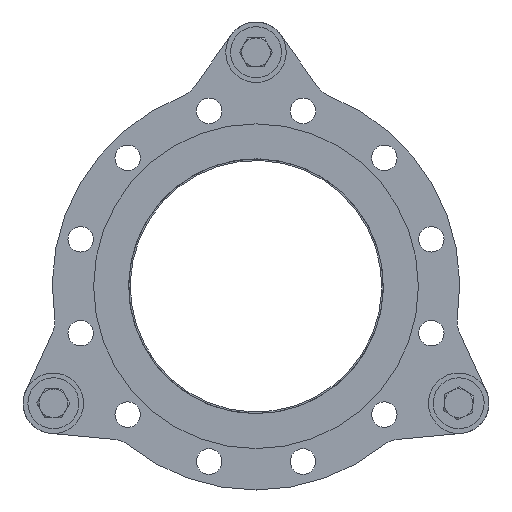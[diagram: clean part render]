
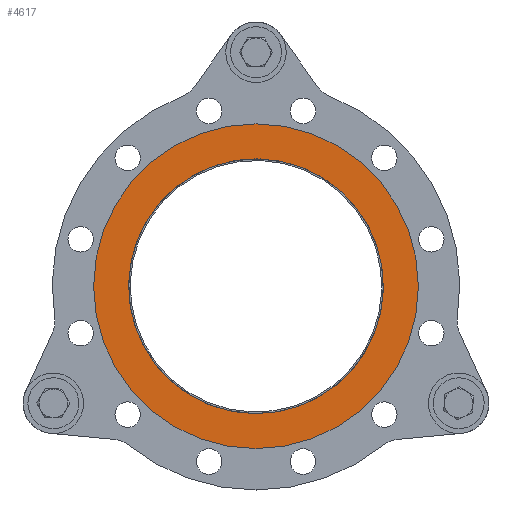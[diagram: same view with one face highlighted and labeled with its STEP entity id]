
A CAD part, front view. The second image highlights one B-rep face of the part: STEP entity #4617.
In plain terms, the highlighted planar face has unit normal (0, -1, 0).
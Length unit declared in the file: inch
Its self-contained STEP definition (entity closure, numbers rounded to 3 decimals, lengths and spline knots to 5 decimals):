
#476=PLANE('',#5053);
#664=FACE_BOUND('',#1295,.T.);
#905=FACE_OUTER_BOUND('',#1294,.T.);
#1294=EDGE_LOOP('',(#3238));
#1295=EDGE_LOOP('',(#3239));
#1839=CIRCLE('',#5049,5.);
#1840=CIRCLE('',#5051,6.375);
#2171=VERTEX_POINT('',#7226);
#2172=VERTEX_POINT('',#7229);
#2605=EDGE_CURVE('',#2171,#2171,#1839,.T.);
#2606=EDGE_CURVE('',#2172,#2172,#1840,.T.);
#3238=ORIENTED_EDGE('',*,*,#2606,.T.);
#3239=ORIENTED_EDGE('',*,*,#2605,.T.);
#4617=ADVANCED_FACE('',(#905,#664),#476,.T.);
#5049=AXIS2_PLACEMENT_3D('',#7227,#5860,#5861);
#5051=AXIS2_PLACEMENT_3D('',#7230,#5864,#5865);
#5053=AXIS2_PLACEMENT_3D('',#7233,#5868,#5869);
#5860=DIRECTION('center_axis',(0.,1.,0.));
#5861=DIRECTION('ref_axis',(-1.,0.,0.));
#5864=DIRECTION('center_axis',(0.,-1.,0.));
#5865=DIRECTION('ref_axis',(1.,0.,0.));
#5868=DIRECTION('center_axis',(0.,-1.,0.));
#5869=DIRECTION('ref_axis',(0.,0.,
1.));
#7226=CARTESIAN_POINT('',(-5.,0.,0.));
#7227=CARTESIAN_POINT('Origin',(0.,0.,
0.));
#7229=CARTESIAN_POINT('',(-6.375,0.,0.));
#7230=CARTESIAN_POINT('Origin',(0.,0.,
0.));
#7233=CARTESIAN_POINT('Origin',(0.,0.,
0.));
